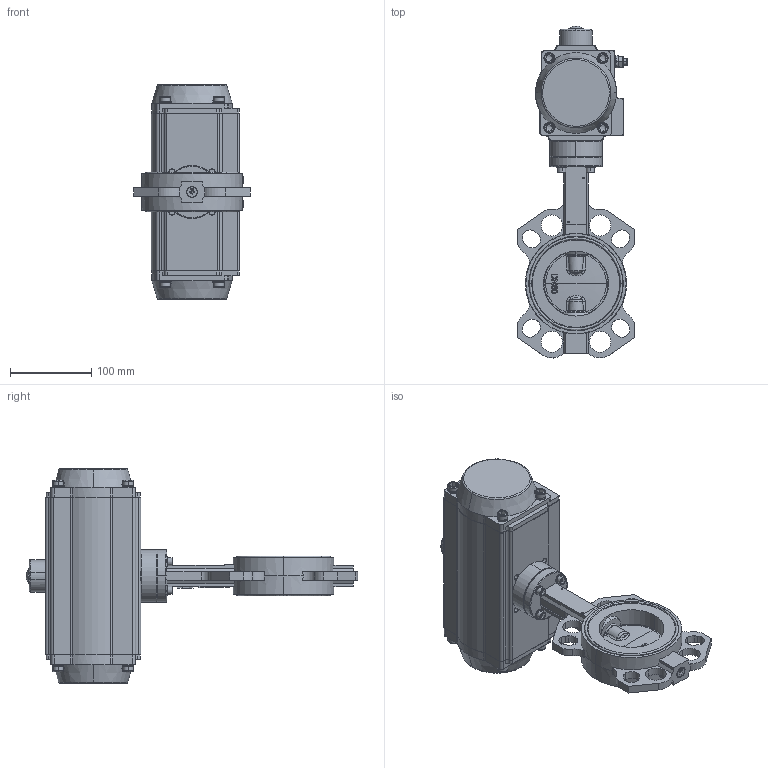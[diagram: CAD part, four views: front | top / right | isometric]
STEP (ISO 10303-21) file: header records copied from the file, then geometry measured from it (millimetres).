
FILE_DESCRIPTION (( 'STEP AP203' ), '1' );
FILE_NAME ('VPI-N07 DN80.step', '2016-09-29T15:57:12', ( 'TECOFI' ), ( '' ), 'SwSTEP 2.0', 'SolidWorks 2014', '' );
FILE_SCHEMA (( 'CONFIG_CONTROL_DESIGN' ));
Length unit declared in the file: millimetre
Products named in the file (1): VPI-N07 DN80
Bounding box: 144 x 408.66 x 264 mm (x, y, z)
Volume: 1784402.3 mm3; surface area: 463972.2 mm2
Topology: 58 solids, 58 shells, 2394 faces, 6145 edges, 3965 vertices
Faces by surface type: plane 884, cylinder 687, bspline 528, cone 269, torus 26
Entity records: 104105 total; most frequent: CARTESIAN_POINT 50022, ORIENTED_EDGE 12202, DIRECTION 9743, EDGE_CURVE 6101, VERTEX_POINT 3963, AXIS2_PLACEMENT_3D 3655, EDGE_LOOP 2650, VECTOR 2433
